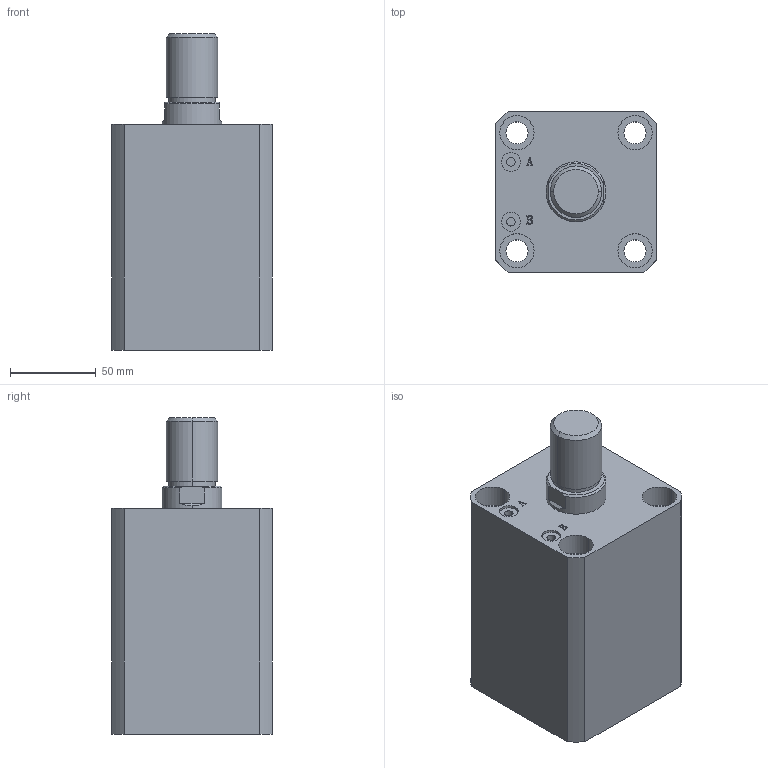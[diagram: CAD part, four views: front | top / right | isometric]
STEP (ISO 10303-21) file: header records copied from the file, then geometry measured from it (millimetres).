
FILE_DESCRIPTION (( 'STEP AP203' ), '1' );
FILE_NAME ('HTB-SDMA63-65W.STEP', '2019-10-08T01:11:12', ( '微软用户' ), ( '微软中国' ), 'SwSTEP 2.0', 'SolidWorks 2012', '' );
FILE_SCHEMA (( 'CONFIG_CONTROL_DESIGN' ));
Length unit declared in the file: millimetre
Products named in the file (3): HTB-SDMA63-65W活塞杆; HTB-SDMA63-65掛极; HTB-SDMA63-65W
Assembly tree (2 placements, depth 2):
  HTB-SDMA63-65W
    HTB-SDMA63-65掛极
    HTB-SDMA63-65W活塞杆
Bounding box: 94 x 94 x 185 mm (x, y, z)
Volume: 962773.6 mm3; surface area: 138299.8 mm2
Topology: 2 solids, 2 shells, 141 faces, 337 edges, 222 vertices
Faces by surface type: plane 67, cylinder 48, bspline 16, torus 6, cone 4
Entity records: 5176 total; most frequent: CARTESIAN_POINT 1593, ORIENTED_EDGE 674, DIRECTION 669, EDGE_CURVE 337, AXIS2_PLACEMENT_3D 242, VERTEX_POINT 222, VECTOR 185, LINE 185
